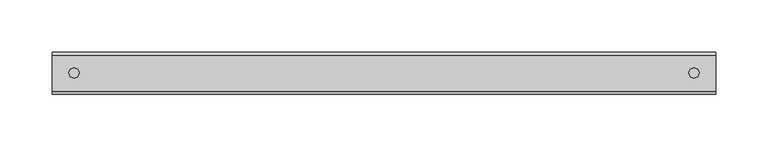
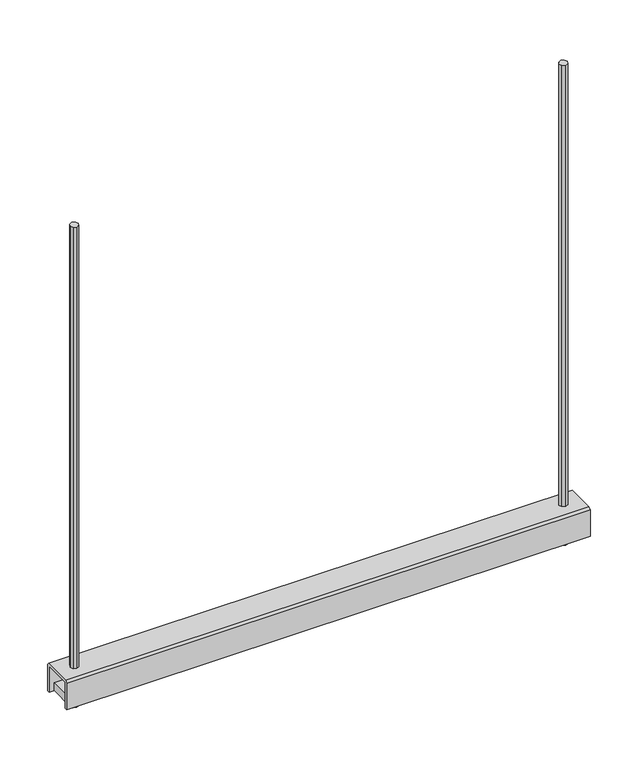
"""IFC4 building model written with IfcOpenShell, lengths in millimetres: proxy geometry, Beared-Hanger : BearedHanger."""

from ifc_helpers import new_model, si_unit, frame, origin, place, context, project, spatial, polyline, outline, extrude, source, transform, mapped, element, save


def mechanical_equipment_3f4d8ae7(model_context):
    return source(origin(), model_context, "Body", "SweptSolid", [
        extrude(outline(polyline([(281.2609065, -17.3962402), (281.2609065, 16.7883301), (311.0778011, 16.7883301), (311.0778011, -17.3962402), (281.2609065, -17.3962402)])), frame((0.0, 0.0, -601.0154053), z_axis=(0.0, 0.0, 1.0), x_axis=(1.0, 0.0, 0.0)), (0.0, 0.0, 1.0), 10.0),
        extrude(outline(polyline([(296.1693538, 5.0), (299.7045101, 3.5351562), (301.1699642, 0.0), (299.7045101, -3.5351563), (296.1693538, -5.0), (292.6341976, -3.5351563), (291.1693538, 0.0), (292.6341976, 3.5351562), (296.1693538, 5.0)])), frame((0.0, 0.0, -614.6), z_axis=(0.0, 0.0, 1.0), x_axis=(1.0, 0.0, 0.0)), (0.0, 0.0, 1.0), 614.6),
        extrude(outline(polyline([(-281.2609065, 16.7883301), (-281.2609065, -17.3962402), (-311.0778011, -17.3962402), (-311.0778011, 16.7883301), (-281.2609065, 16.7883301)])), frame((0.0, 0.0, -601.0154053), z_axis=(0.0, 0.0, 1.0), x_axis=(1.0, 0.0, 0.0)), (0.0, 0.0, 1.0), 10.0),
        extrude(outline(polyline([(-296.1693538, 5.0), (-292.6341976, 3.5351562), (-291.1693538, 0.0), (-292.6341976, -3.5351563), (-296.1693538, -5.0), (-299.7045101, -3.5351563), (-301.1699642, 0.0), (-299.7045101, 3.5351562), (-296.1693538, 5.0)])), frame((0.0, 0.0, -614.6), z_axis=(0.0, 0.0, 1.0), x_axis=(1.0, 0.0, 0.0)), (0.0, 0.0, 1.0), 614.6),
        extrude(outline(polyline([(-17.8259277, -564.6), (17.1740723, -564.6), (19.6740723, -567.0996948), (19.6740723, -601.0154053), (16.7883301, -601.0154053), (16.7883301, -567.5998779), (-17.3962402, -567.5998779), (-17.3962402, -601.0154053), (-20.3259277, -601.0154053), (-20.3259277, -567.0996948), (-17.8259277, -564.6)])), frame((-317.0654297, 0.0, 0.0), z_axis=(1.0, 0.0, 0.0), x_axis=(0.0, 1.0, 0.0)), (0.0, 0.0, 1.0), 634.1308594),
    ])


if __name__ == "__main__":
    model = new_model("IFC4")
    model_context = context("Model", 3, world=origin())
    ifc_project = project(units=[si_unit("LENGTHUNIT", "METRE", prefix="MILLI")], contexts=[model_context])
    site = spatial("IfcSite", under=ifc_project)
    building = spatial("IfcBuilding", under=site)
    placement = place(None, origin())
    mechanical_equipment_shape = mechanical_equipment_3f4d8ae7(model_context)
    element("IfcBuildingElementProxy", 1, Name="Beared-Hanger : BearedHanger", ObjectType="Beared-Hanger : BearedHanger", at=placement, inside=building, context=model_context, shape_type="MappedRepresentation", body=[
        mapped(mechanical_equipment_shape, transform((0.0, 0.0, 0.0), x_axis=(1.0, 0.0, 0.0), y_axis=(0.0, 1.0, 0.0), z_axis=(0.0, 0.0, 1.0))),
    ])
    save(model, "model.ifc")
